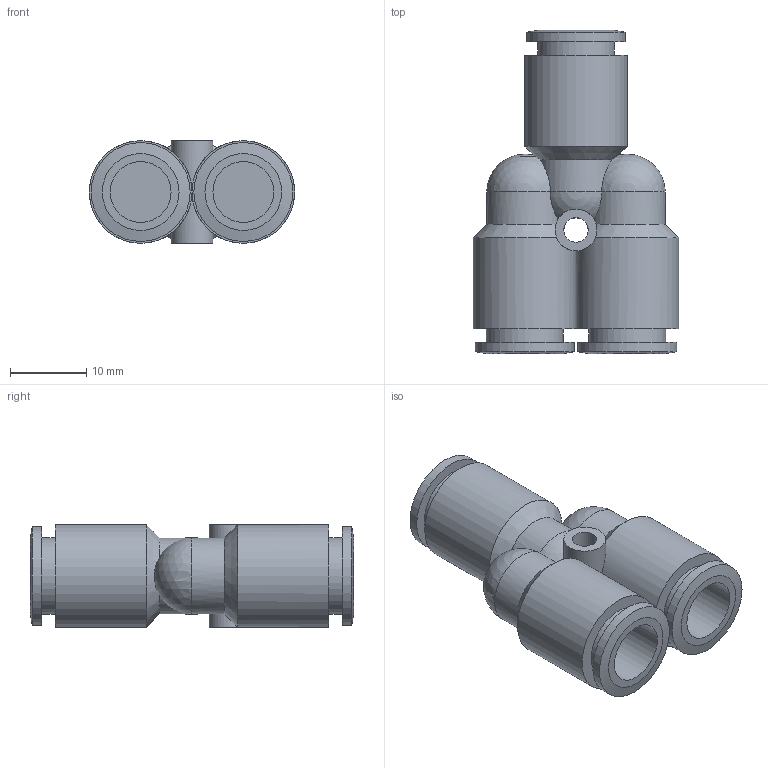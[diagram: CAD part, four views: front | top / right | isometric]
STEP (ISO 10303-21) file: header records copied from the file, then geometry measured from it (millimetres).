
FILE_DESCRIPTION((''),'2;1');
FILE_NAME('C:\Documents and Settings\rivolro1\Documenti\copia di Raccordi\PLASTICA\T23XXXX\T230800.stp','2007-11-02T14:44:36',('Rivolro1'),(''),'Autodesk Inventor 2008','Autodesk Inventor 2008','');
FILE_SCHEMA(('AUTOMOTIVE_DESIGN { 1 0 10303 214 1 1 1 1 }'));
Length unit declared in the file: millimetre
Products named in the file (1): T230800
Bounding box: 27 x 42.5 x 13.5 mm (x, y, z)
Volume: 6081.4 mm3; surface area: 4757.1 mm2
Topology: 1 solids, 1 shells, 43 faces, 98 edges, 59 vertices
Faces by surface type: cylinder 18, plane 14, cone 6, sphere 4, bspline 1
Full cylindrical faces by diameter (mm): 5.5 x2, 8 x3, 10.1 x3, 13 x3, 13.5 x3
Entity records: 1369 total; most frequent: CARTESIAN_POINT 475, DIRECTION 178, ORIENTED_EDGE 142, AXIS2_PLACEMENT_3D 88, EDGE_CURVE 71, EDGE_LOOP 71, VERTEX_POINT 55, CIRCLE 45
